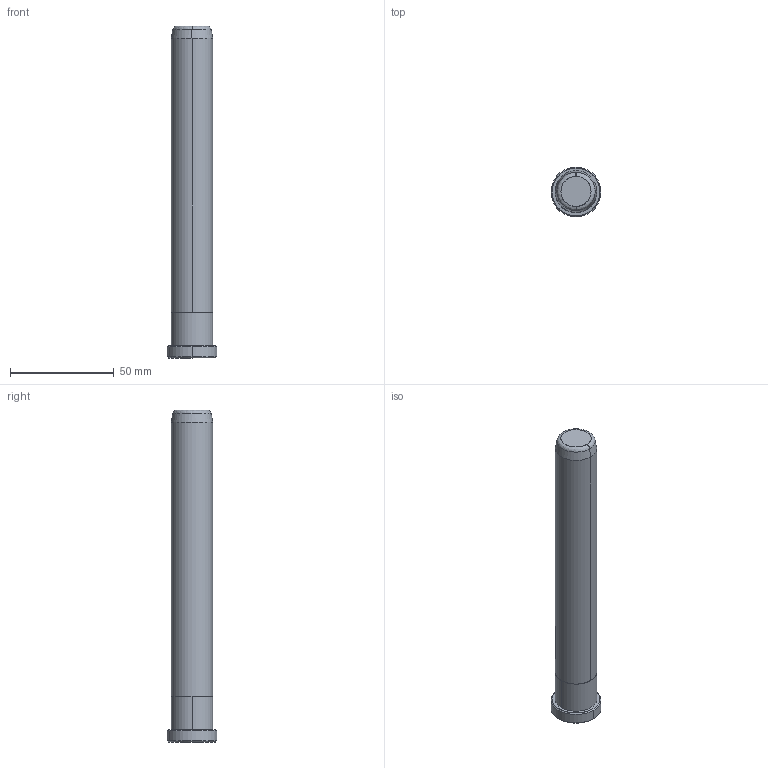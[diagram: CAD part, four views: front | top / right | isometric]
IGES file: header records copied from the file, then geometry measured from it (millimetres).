
Start section: START RECORD GO HERE.
Global section: file name: B85820160.igs; native system: DASSAULT SYSTEMES CATIA V5 R20 - www.3ds.com; preprocessor: CATIA Version 5 Release 20 ; author: Utente; organization: NB04-ASUS; date: 20200419.204947; units: millimetre
Bounding box: 24 x 24 x 160 mm (x, y, z)
Surface area: 10879 mm2 (no closed solid volume)
Topology: 0 solids, 0 shells, 20 faces, 80 edges, 80 vertices
Faces by surface type: revolution 16, plane 4
